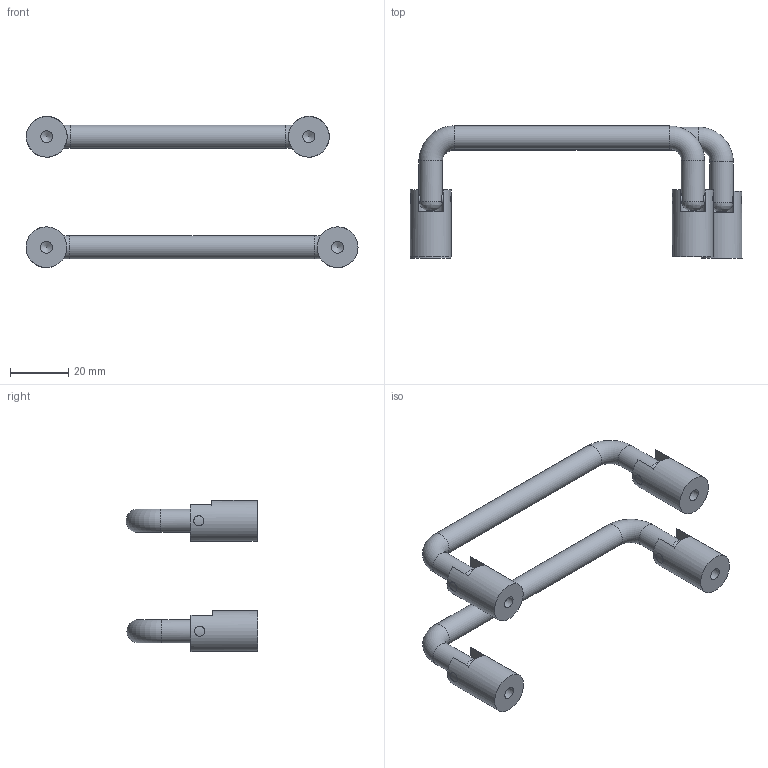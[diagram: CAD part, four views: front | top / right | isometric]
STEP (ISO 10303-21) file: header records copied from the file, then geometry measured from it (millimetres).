
FILE_DESCRIPTION(/* description */ (''),/* implementation_level */ '2;1');
FILE_NAME(/* name */ '\\NAS\db20\A-GDN8_M\DR_A-GDN8.stp',/* time_stamp */ '2018-08-10T10:54:47+09:00',/* author */ ('user'),/* organization */ (''),/* preprocessor_version */ 'ST-DEVELOPER v15.6',/* originating_system */ 'Autodesk Inventor 2015',/* authorisation */ '');
FILE_SCHEMA (('AUTOMOTIVE_DESIGN { 1 0 10303 214 3 1 1 }'));
Length unit declared in the file: millimetre
Products named in the file (4): DR_A-GDN8-90; DR_A-GDN8_NUT; DR_A-GDN8-100; DR_A-GDN8
Bounding box: 114 x 45.31 x 51.92 mm (x, y, z)
Volume: 25139.8 mm3; surface area: 14020.5 mm2
Topology: 10 solids, 10 shells, 70 faces, 162 edges, 104 vertices
Faces by surface type: cylinder 34, plane 24, bspline 4, torus 4, cone 4
Full cylindrical faces by diameter (mm): 3.5 x8, 4.134 x4, 8 x6, 14 x4
Entity records: 1600 total; most frequent: CARTESIAN_POINT 776, DIRECTION 158, ORIENTED_EDGE 130, AXIS2_PLACEMENT_3D 75, EDGE_CURVE 65, EDGE_LOOP 52, VERTEX_POINT 49, CIRCLE 35
